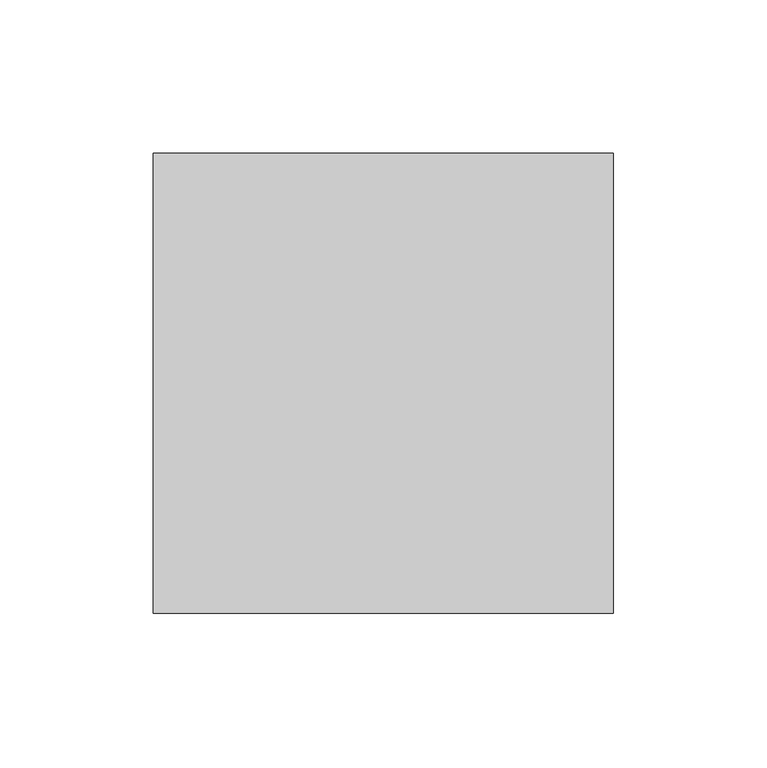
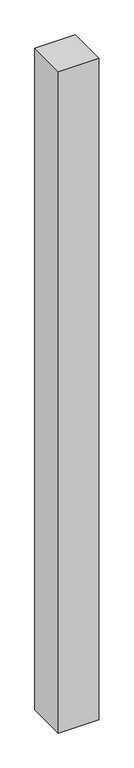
"""IFC4 building model written with IfcOpenShell, lengths in millimetres: column geometry, Poteau béton - Carré : 150 mm x 150 mm."""

from ifc_helpers import new_model, si_unit, origin, origin_with_axes, place, context, project, spatial, polyline, outline, extrude, source, transform, mapped, element, save


def column_5305e665(model_context):
    return source(origin(), model_context, "Body", "SweptSolid", [
        extrude(outline(polyline([(75.0, 75.0), (75.0, -75.0), (-75.0, -75.0), (-75.0, 75.0), (75.0, 75.0)])), origin_with_axes(), (0.0, 0.0, 1.0), 2590.0),
    ])


if __name__ == "__main__":
    model = new_model("IFC4")
    model_context = context("Model", 3, world=origin())
    ifc_project = project(units=[si_unit("LENGTHUNIT", "METRE", prefix="MILLI")], contexts=[model_context])
    site = spatial("IfcSite", under=ifc_project)
    building = spatial("IfcBuilding", under=site)
    placement = place(None, origin())
    column_shape = column_5305e665(model_context)
    element("IfcColumn", 1, ObjectType="Poteau béton - Carré : 150 mm x 150 mm", at=placement, inside=building, context=model_context, shape_type="MappedRepresentation", body=[
        mapped(column_shape, transform((0.0, 0.0, 0.0), x_axis=(1.0, 0.0, 0.0), y_axis=(0.0, 1.0, 0.0), z_axis=(0.0, 0.0, 1.0))),
    ])
    save(model, "model.ifc")
